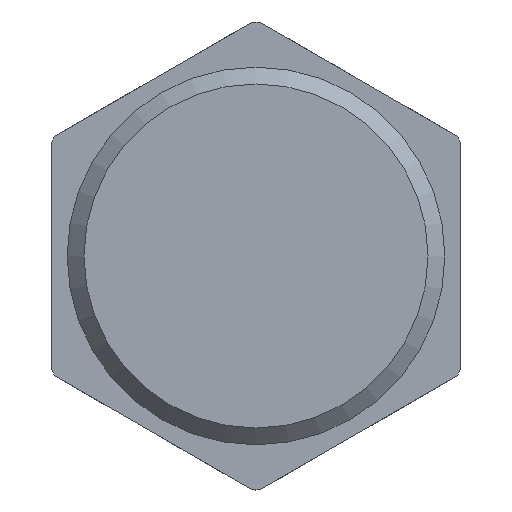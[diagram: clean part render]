
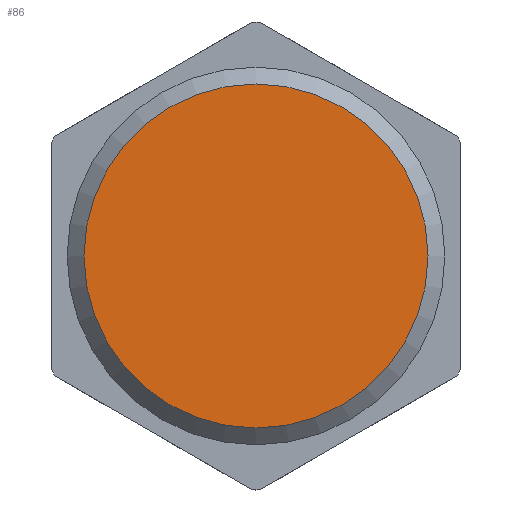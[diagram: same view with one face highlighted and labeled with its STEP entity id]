
A CAD part, front view. The second image highlights one B-rep face of the part: STEP entity #86.
In plain terms, the highlighted planar face has unit normal (0, -1, 0).
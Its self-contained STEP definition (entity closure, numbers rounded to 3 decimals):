
#86 = ADVANCED_FACE( '', ( #180 ), #181, .F. );
#180 = FACE_OUTER_BOUND( '', #304, .T. );
#181 = PLANE( '', #305 );
#304 = EDGE_LOOP( '', ( #472 ) );
#305 = AXIS2_PLACEMENT_3D( '', #473, #474, #475 );
#472 = ORIENTED_EDGE( '', *, *, #510, .T. );
#473 = CARTESIAN_POINT( '', ( 15.146, 0., 0. ) );
#474 = DIRECTION( '', ( 0., 1., 0. ) );
#475 = DIRECTION( '', ( 0., 0., 1. ) );
#510 = EDGE_CURVE( '', #583, #583, #584, .T. );
#583 = VERTEX_POINT( '', #687 );
#584 = CIRCLE( '', #688, 15.146 );
#687 = CARTESIAN_POINT( '', ( 0., 0., -15.146 ) );
#688 = AXIS2_PLACEMENT_3D( '', #875, #876, #877 );
#875 = CARTESIAN_POINT( '', ( 0., 0., 0. ) );
#876 = DIRECTION( '', ( 0., -1., 0. ) );
#877 = DIRECTION( '', ( 0., 0., -1. ) );
